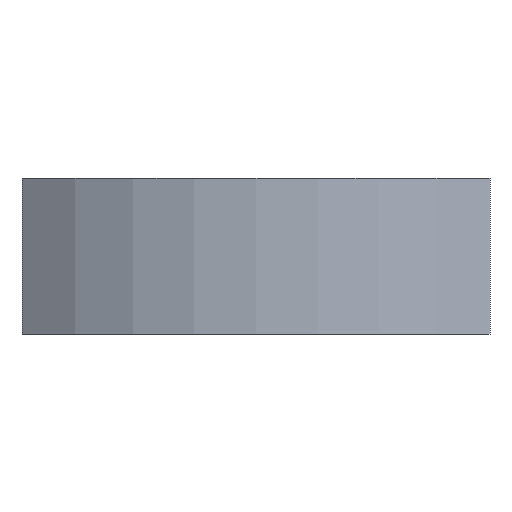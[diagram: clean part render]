
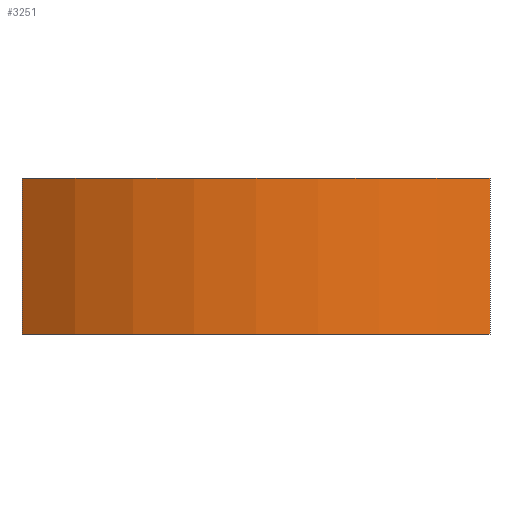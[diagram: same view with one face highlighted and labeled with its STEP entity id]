
A CAD part, left-side view. The second image highlights one B-rep face of the part: STEP entity #3251.
In plain terms, the highlighted cylindrical face has radius 25 mm (diameter 50 mm), a partial arc.
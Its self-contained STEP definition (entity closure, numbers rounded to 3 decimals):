
#137=CIRCLE('',#3365,25.);
#143=CIRCLE('',#3381,25.);
#149=CYLINDRICAL_SURFACE('',#3380,25.);
#323=FACE_OUTER_BOUND('',#519,.T.);
#519=EDGE_LOOP('',(#2966,#2967,#2968,#2969));
#797=LINE('',#6043,#1072);
#799=LINE('',#6047,#1074);
#1072=VECTOR('',#3862,10.);
#1074=VECTOR('',#3866,10.);
#1560=VERTEX_POINT('',#6013);
#1561=VERTEX_POINT('',#6015);
#1568=VERTEX_POINT('',#6042);
#1569=VERTEX_POINT('',#6046);
#2027=EDGE_CURVE('',#1561,#1560,#137,.T.);
#2038=EDGE_CURVE('',#1568,#1561,#797,.T.);
#2040=EDGE_CURVE('',#1569,#1560,#799,.T.);
#2041=EDGE_CURVE('',#1568,#1569,#143,.T.);
#2966=ORIENTED_EDGE('',*,*,#2027,.T.);
#2967=ORIENTED_EDGE('',*,*,#2040,.F.);
#2968=ORIENTED_EDGE('',*,*,#2041,.F.);
#2969=ORIENTED_EDGE('',*,*,#2038,.T.);
#3251=ADVANCED_FACE('',(#323),#149,.T.);
#3365=AXIS2_PLACEMENT_3D('',#6016,#3827,#3828);
#3380=AXIS2_PLACEMENT_3D('',#6045,#3864,#3865);
#3381=AXIS2_PLACEMENT_3D('',#6048,#3867,#3868);
#3827=DIRECTION('center_axis',(0.,0.,-1.));
#3828=DIRECTION('ref_axis',(0.8,-0.6,0.));
#3862=DIRECTION('',(0.,0.,1.));
#3864=DIRECTION('center_axis',(0.,0.,1.));
#3865=DIRECTION('ref_axis',(0.8,-0.6,0.));
#3866=DIRECTION('',(0.,0.,1.));
#3867=DIRECTION('center_axis',(0.,0.,-1.));
#3868=DIRECTION('ref_axis',(0.8,-0.6,0.));
#6013=CARTESIAN_POINT('',(-20.,15.,10.));
#6015=CARTESIAN_POINT('',(-20.,-15.,10.));
#6016=CARTESIAN_POINT('Origin',(0.,0.,10.));
#6042=CARTESIAN_POINT('',(-20.,-15.,0.));
#6043=CARTESIAN_POINT('',(-20.,-15.,0.));
#6045=CARTESIAN_POINT('Origin',(0.,0.,0.));
#6046=CARTESIAN_POINT('',(-20.,15.,0.));
#6047=CARTESIAN_POINT('',(-20.,15.,0.));
#6048=CARTESIAN_POINT('Origin',(0.,0.,0.));
